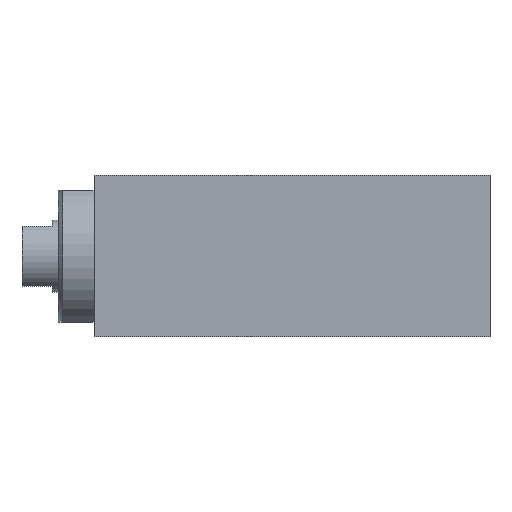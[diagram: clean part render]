
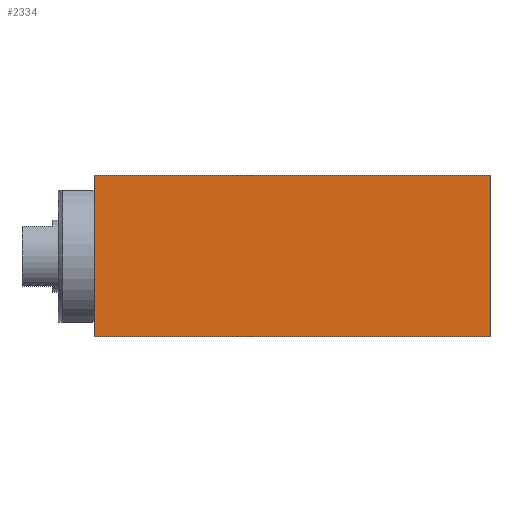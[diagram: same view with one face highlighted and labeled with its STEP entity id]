
A CAD part, front view. The second image highlights one B-rep face of the part: STEP entity #2334.
In plain terms, the highlighted planar face has unit normal (0, -1, 0).
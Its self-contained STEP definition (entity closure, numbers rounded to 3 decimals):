
#10 = DIRECTION ( 'NONE',  ( 0., 0., 1. ) ) ;
#62 = DIRECTION ( 'NONE',  ( -1., 0., 0. ) ) ;
#117 = CARTESIAN_POINT ( 'NONE',  ( 0., -11.5, -6.75 ) ) ;
#302 = DIRECTION ( 'NONE',  ( -1., 0., 0. ) ) ;
#348 = CARTESIAN_POINT ( 'NONE',  ( 33., -11.5, -6.75 ) ) ;
#547 = CARTESIAN_POINT ( 'NONE',  ( 0., -11.5, 6.75 ) ) ;
#550 = CARTESIAN_POINT ( 'NONE',  ( 33., -11.5, -6.75 ) ) ;
#644 = LINE ( 'NONE', #117, #1019 ) ;
#749 = AXIS2_PLACEMENT_3D ( 'NONE', #550, #793, #2651 ) ;
#793 = DIRECTION ( 'NONE',  ( 0., -1., 0. ) ) ;
#907 = EDGE_CURVE ( 'NONE', #2211, #1834, #644, .T. ) ;
#1019 = VECTOR ( 'NONE', #1995, 1000. ) ;
#1023 = FACE_OUTER_BOUND ( 'NONE', #1466, .T. ) ;
#1166 = EDGE_CURVE ( 'NONE', #2429, #1396, #1470, .T. ) ;
#1202 = ORIENTED_EDGE ( 'NONE', *, *, #1267, .T. ) ;
#1223 = CARTESIAN_POINT ( 'NONE',  ( 33., -11.5, -6.75 ) ) ;
#1263 = VECTOR ( 'NONE', #302, 1000. ) ;
#1267 = EDGE_CURVE ( 'NONE', #1396, #1834, #2834, .T. ) ;
#1339 = LINE ( 'NONE', #2284, #1263 ) ;
#1396 = VERTEX_POINT ( 'NONE', #2874 ) ;
#1466 = EDGE_LOOP ( 'NONE', ( #1818, #2983, #2590, #1202 ) ) ;
#1470 = LINE ( 'NONE', #1223, #1945 ) ;
#1749 = EDGE_CURVE ( 'NONE', #2429, #2211, #1339, .T. ) ;
#1818 = ORIENTED_EDGE ( 'NONE', *, *, #907, .F. ) ;
#1834 = VERTEX_POINT ( 'NONE', #547 ) ;
#1888 = CARTESIAN_POINT ( 'NONE',  ( 0., -11.5, -6.75 ) ) ;
#1945 = VECTOR ( 'NONE', #10, 1000. ) ;
#1995 = DIRECTION ( 'NONE',  ( 0., 0., 1. ) ) ;
#2180 = PLANE ( 'NONE',  #749 ) ;
#2187 = VECTOR ( 'NONE', #62, 1000. ) ;
#2211 = VERTEX_POINT ( 'NONE', #1888 ) ;
#2284 = CARTESIAN_POINT ( 'NONE',  ( 33., -11.5, -6.75 ) ) ;
#2334 = ADVANCED_FACE ( 'NONE', ( #1023 ), #2180, .T. ) ;
#2429 = VERTEX_POINT ( 'NONE', #348 ) ;
#2590 = ORIENTED_EDGE ( 'NONE', *, *, #1166, .T. ) ;
#2651 = DIRECTION ( 'NONE',  ( 1., 0., 0. ) ) ;
#2834 = LINE ( 'NONE', #2845, #2187 ) ;
#2845 = CARTESIAN_POINT ( 'NONE',  ( 33., -11.5, 6.75 ) ) ;
#2874 = CARTESIAN_POINT ( 'NONE',  ( 33., -11.5, 6.75 ) ) ;
#2983 = ORIENTED_EDGE ( 'NONE', *, *, #1749, .F. ) ;
